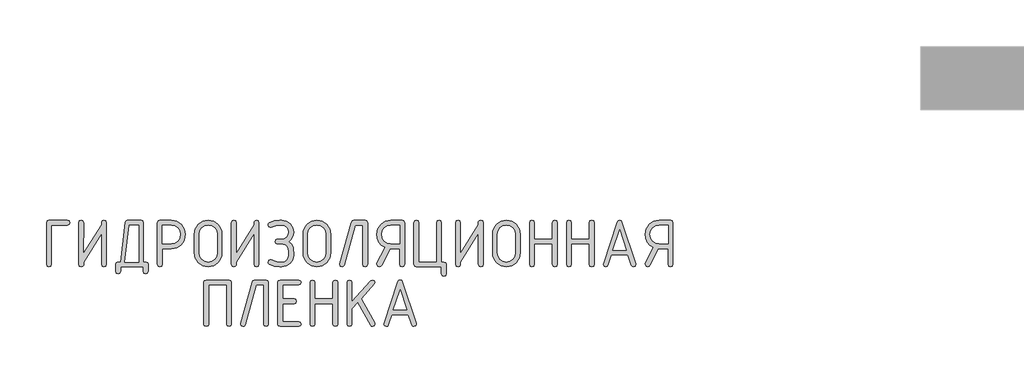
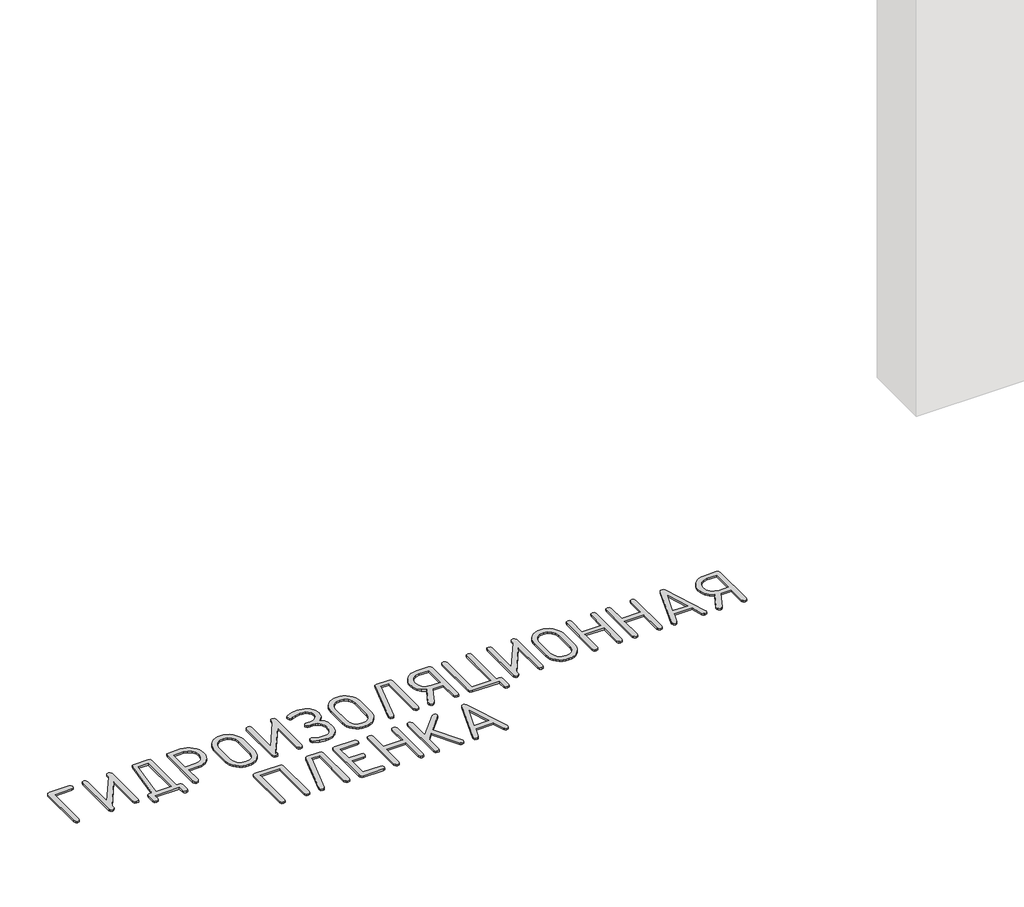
# One storey, part 13 of 42: 1 proxy.
"""IFC4 building model written with IfcOpenShell, lengths in millimetres."""

from ifc_helpers import new_model, si_unit, origin, origin_with_axes, place, context, project, spatial, polyline, outline, extrude, element, save

model = new_model("IFC4")

# Units and contexts
model_context = context("Model", 3, world=origin())
ifc_project = project(units=[si_unit("LENGTHUNIT", "METRE", prefix="MILLI")], contexts=[model_context])

# Site, building, storey
site = spatial("IfcSite", under=ifc_project)
building = spatial("IfcBuilding", under=site)
storey = spatial("IfcBuildingStorey", under=building, Name="Этаж 01", Elevation=0.0)

# Proxy
placement = place(None, origin())
element("IfcBuildingElementProxy", 1, Name="300 мм GOST Common", ObjectType="300 мм GOST Common", at=placement, inside=storey, context=model_context, shape_type="SweptSolid", body=[
    extrude(outline(polyline([(-3643.2745925, -44194.4011118), (-3643.2745925, -44452.9710766), (-3647.1482998, -44464.3500919), (-3658.7694218, -44468.143097), (-3670.3905438, -44464.3299163), (-3674.2642512, -44452.8903743), (-3674.2642512, -44178.6641758), (-3670.3905438, -44167.2246338), (-3658.7694218, -44163.4114531), (-3537.2318541, -44163.4114531), (-3525.8528388, -44167.2851604), (-3522.0598337, -44178.9062825), (-3525.8528388, -44190.5274045), (-3537.2318541, -44194.4011118), (-3643.2745925, -44194.4011118)])), origin_with_axes(), (0.0, 0.0, 1.0), 10.0),
    extrude(outline(polyline([(-3297.7076171, -44163.4114531), (-3285.723335, -44167.2246338), (-3281.7285743, -44178.6641758), (-3281.7285743, -44452.8903743), (-3285.6022817, -44464.3299163), (-3297.2234037, -44468.143097), (-3308.8445257, -44464.3299163), (-3312.718233, -44452.8903743), (-3312.718233, -44249.7628458), (-3431.5119247, -44437.6376517), (-3431.5119247, -44457.4904018), (-3436.7172189, -44465.4799232), (-3446.5225406, -44468.143097), (-3458.5068227, -44464.3299163), (-3462.5015834, -44452.8903743), (-3462.5015834, -44178.6641758), (-3458.6278761, -44167.2246338), (-3447.006754, -44163.4114531), (-3435.385632, -44167.2246338), (-3431.5119247, -44178.6641758), (-3432.3996493, -44381.7917043), (-3312.718233, -44193.9168984), (-3312.718233, -44174.0641483), (-3307.5129388, -44166.0746269), (-3297.7076171, -44163.4114531)])), origin_with_axes(), (0.0, 0.0, 1.0), 10.0),
    extrude(outline(polyline([(-3038.9762478, -44437.1534383), (-3018.8006888, -44438.1218651), (-3010.6901141, -44443.1657549), (-3007.9865891, -44452.6482676), (-3007.9865891, -44499.1327557), (-3011.8602965, -44510.7538777), (-3023.4814185, -44514.627585), (-3035.1025405, -44510.7538777), (-3038.9762478, -44499.1327557), (-3038.9762478, -44468.143097), (-3188.7595982, -44468.143097), (-3188.7595982, -44499.1327557), (-3192.6333056, -44510.7538777), (-3204.2544276, -44514.627585), (-3215.8755496, -44510.7538777), (-3219.7492569, -44499.1327557), (-3219.7492569, -44452.6482676), (-3217.0255564, -44443.1657549), (-3208.854455, -44438.1218651), (-3188.7595982, -44437.1534383), (-3156.8015127, -44177.6957489), (-3152.625172, -44166.9825271), (-3143.6470482, -44163.4114531), (-3053.9061615, -44163.4114531), (-3042.7087263, -44167.2044582), (-3038.9762478, -44178.5834735), (-3038.9762478, -44437.1534383)]), holes=[polyline([(-3069.9659065, -44437.1534383), (-3069.9659065, -44194.4011118), (-3130.5732859, -44194.4011118), (-3160.9173267, -44437.1534383), (-3069.9659065, -44437.1534383)])]), origin_with_axes(), (0.0, 0.0, 1.0), 10.0),
    extrude(outline(polyline([(-2930.9159536, -44163.4114531), (-2855.6207672, -44163.4114531), (-2837.4854616, -44165.1062001), (-2820.767489, -44170.190441), (-2805.4668494, -44178.6641758), (-2791.5835428, -44190.5274045), (-2780.0557327, -44204.8117003), (-2771.8215827, -44220.5486363), (-2766.8810927, -44237.7382126), (-2765.2342627, -44256.3804292), (-2766.7953466, -44276.0717748), (-2771.4785982, -44293.8262668), (-2779.2840176, -44309.6439051), (-2790.2116048, -44323.5246897), (-2803.6359174, -44334.8230028), (-2818.9315131, -44342.8932264), (-2836.0983919, -44347.7353606), (-2855.1365538, -44349.3494053), (-2915.017613, -44349.3494053), (-2915.017613, -44453.2938855), (-2918.8913204, -44464.4307941), (-2930.5124424, -44468.143097), (-2942.1335644, -44464.3299163), (-2946.0072717, -44452.8903743), (-2946.0072717, -44178.6641758), (-2942.2344422, -44167.2246338), (-2930.9159536, -44163.4114531)]), holes=[polyline([(-2915.017613, -44194.4011118), (-2915.017613, -44318.3597466), (-2855.6207672, -44318.3597466), (-2832.6105421, -44313.8706847), (-2813.4538488, -44300.4034991), (-2800.5314032, -44280.4196078), (-2796.2239214, -44256.3804292), (-2800.5314032, -44232.3412506), (-2813.4538488, -44212.3573594), (-2832.6105421, -44198.8901737), (-2855.6207672, -44194.4011118), (-2915.017613, -44194.4011118)])]), origin_with_axes(), (0.0, 0.0, 1.0), 10.0),
    extrude(outline(polyline([(-2522.4819362, -44376.7074634), (-2524.136332, -44394.9411249), (-2529.0995196, -44411.7927606), (-2537.3714988, -44427.2623705), (-2548.9522697, -44441.3499546), (-2562.8734054, -44453.0719544), (-2578.1664792, -44461.4448114), (-2594.8314909, -44466.4685256), (-2612.8684407, -44468.143097), (-2630.9053905, -44466.4685256), (-2647.5704023, -44461.4448114), (-2662.8634761, -44453.0719544), (-2676.7846118, -44441.3499546), (-2688.3653827, -44427.2623705), (-2696.6373619, -44411.7927606), (-2701.6005494, -44394.9411249), (-2703.2549453, -44376.7074634), (-2703.2549453, -44254.8470867), (-2701.6005494, -44236.6134252), (-2696.6373619, -44219.7617895), (-2688.3653827, -44204.2921796), (-2676.7846118, -44190.2045955), (-2662.8634761, -44178.4825957), (-2647.5704023, -44170.1097387), (-2630.9053905, -44165.0860245), (-2612.8684407, -44163.4114531), (-2594.7331351, -44165.0784587), (-2578.0151625, -44170.0794754), (-2562.7145229, -44178.4145032), (-2548.8312163, -44190.0835422), (-2537.3034063, -44204.1332971), (-2529.0692562, -44219.6104728), (-2524.1287662, -44236.5150694), (-2522.4819362, -44254.8470867), (-2522.4819362, -44376.7074634)]), holes=[polyline([(-2553.4715949, -44376.4653567), (-2553.4715949, -44255.0891934), (-2557.7790767, -44231.5644916), (-2570.7015223, -44211.9941993), (-2589.8582156, -44198.7993837), (-2612.8684407, -44194.4011118), (-2635.8786658, -44198.7993837), (-2655.0353591, -44211.9941993), (-2667.9578047, -44231.5644916), (-2672.2652866, -44255.0891934), (-2672.2652866, -44376.4653567), (-2667.9578047, -44399.9900585), (-2655.0353591, -44419.5603508), (-2635.8786658, -44432.7551664), (-2612.8684407, -44437.1534383), (-2589.8582156, -44432.7551664), (-2570.7015223, -44419.5603508), (-2557.7790767, -44399.9900585), (-2553.4715949, -44376.4653567)])]), origin_with_axes(), (0.0, 0.0, 1.0), 10.0),
    extrude(outline(polyline([(-2295.7086525, -44163.4114531), (-2283.7243704, -44167.2246338), (-2279.7296097, -44178.6641758), (-2279.7296097, -44452.8903743), (-2283.6033171, -44464.3299163), (-2295.2244391, -44468.143097), (-2306.8455611, -44464.3299163), (-2310.7192684, -44452.8903743), (-2310.7192684, -44249.7628458), (-2429.5129601, -44437.6376517), (-2429.5129601, -44457.4904018), (-2434.7182543, -44465.4799232), (-2444.523576, -44468.143097), (-2456.5078581, -44464.3299163), (-2460.5026188, -44452.8903743), (-2460.5026188, -44178.6641758), (-2456.6289115, -44167.2246338), (-2445.0077894, -44163.4114531), (-2433.3866674, -44167.2246338), (-2429.5129601, -44178.6641758), (-2430.4006847, -44381.7917043), (-2310.7192684, -44193.9168984), (-2310.7192684, -44174.0641483), (-2305.5139742, -44166.0746269), (-2295.7086525, -44163.4114531)])), origin_with_axes(), (0.0, 0.0, 1.0), 10.0),
    extrude(outline(polyline([(-2144.0691507, -44194.4011118), (-2170.6807131, -44197.7300791), (-2197.7361377, -44207.7169808), (-2204.6765301, -44209.5731322), (-2215.248523, -44204.9731048), (-2219.8485505, -44194.4011118), (-2217.6494145, -44186.5729949), (-2211.0520067, -44180.5203272), (-2179.6184857, -44167.6886716), (-2144.0691507, -44163.4114531), (-2128.8971303, -44163.4114531), (-2099.672833, -44169.0606096), (-2074.9476854, -44186.0080792), (-2058.0910058, -44210.9854213), (-2052.4721126, -44240.7241954), (-2054.3686151, -44259.0284713), (-2060.0581228, -44275.4463325), (-2069.5406355, -44289.9777789), (-2082.8161534, -44302.6228105), (-2065.0414859, -44320.901867), (-2055.2966909, -44342.9739286), (-2052.4721126, -44392.9286129), (-2058.0910058, -44421.8502767), (-2074.9476854, -44446.1517376), (-2099.672833, -44462.6452571), (-2128.8971303, -44468.143097), (-2144.0691507, -44468.143097), (-2179.1746234, -44463.8658785), (-2211.0520067, -44451.0342229), (-2217.6494145, -44445.1026086), (-2219.8485505, -44437.1534383), (-2215.3695764, -44426.460392), (-2204.6765301, -44421.9814179), (-2197.7361377, -44423.8375693), (-2164.2447097, -44435.2972869), (-2128.8971303, -44437.1534383), (-2111.3141306, -44433.9253488), (-2096.6565869, -44424.2410805), (-2086.7604752, -44409.896258), (-2083.4617713, -44392.6865061), (-2083.4617713, -44363.0687855), (-2089.4337368, -44340.7949683), (-2097.2517659, -44330.9795588), (-2107.3899843, -44323.968552), (-2119.848392, -44319.761948), (-2134.626989, -44318.3597466), (-2143.827044, -44318.3597466), (-2152.5428855, -44318.3597466), (-2163.2863707, -44317.2400031), (-2169.8535151, -44313.8807725), (-2174.3324892, -44302.9456195), (-2169.7728129, -44291.9701154), (-2163.3670729, -44288.5200948), (-2153.2692056, -44287.3700879), (-2144.2709063, -44287.3700879), (-2134.2234779, -44287.3700879), (-2112.9483508, -44283.9402429), (-2096.8986936, -44273.6507078), (-2086.8210019, -44258.5795651), (-2083.4617713, -44240.8048976), (-2086.7907385, -44222.9999668), (-2096.7776403, -44207.9994386), (-2111.4654473, -44197.8006935), (-2128.8971303, -44194.4011118), (-2144.0691507, -44194.4011118)])), origin_with_axes(), (0.0, 0.0, 1.0), 10.0),
    extrude(outline(polyline([(-1809.7197861, -44376.7074634), (-1811.374182, -44394.9411249), (-1816.3373695, -44411.7927606), (-1824.6093487, -44427.2623705), (-1836.1901196, -44441.3499546), (-1850.1112553, -44453.0719544), (-1865.4043291, -44461.4448114), (-1882.0693409, -44466.4685256), (-1900.1062907, -44468.143097), (-1918.1432404, -44466.4685256), (-1934.8082522, -44461.4448114), (-1950.101326, -44453.0719544), (-1964.0224617, -44441.3499546), (-1975.6032326, -44427.2623705), (-1983.8752118, -44411.7927606), (-1988.8383994, -44394.9411249), (-1990.4927952, -44376.7074634), (-1990.4927952, -44254.8470867), (-1988.8383994, -44236.6134252), (-1983.8752118, -44219.7617895), (-1975.6032326, -44204.2921796), (-1964.0224617, -44190.2045955), (-1950.101326, -44178.4825957), (-1934.8082522, -44170.1097387), (-1918.1432404, -44165.0860245), (-1900.1062907, -44163.4114531), (-1881.970985, -44165.0784587), (-1865.2530124, -44170.0794754), (-1849.9523728, -44178.4145032), (-1836.0690662, -44190.0835422), (-1824.5412562, -44204.1332971), (-1816.3071061, -44219.6104728), (-1811.3666161, -44236.5150694), (-1809.7197861, -44254.8470867), (-1809.7197861, -44376.7074634)]), holes=[polyline([(-1840.7094448, -44376.4653567), (-1840.7094448, -44255.0891934), (-1845.0169267, -44231.5644916), (-1857.9393722, -44211.9941993), (-1877.0960656, -44198.7993837), (-1900.1062907, -44194.4011118), (-1923.1165158, -44198.7993837), (-1942.2732091, -44211.9941993), (-1955.1956546, -44231.5644916), (-1959.5031365, -44255.0891934), (-1959.5031365, -44376.4653567), (-1955.1956546, -44399.9900585), (-1942.2732091, -44419.5603508), (-1923.1165158, -44432.7551664), (-1900.1062907, -44437.1534383), (-1877.0960656, -44432.7551664), (-1857.9393722, -44419.5603508), (-1845.0169267, -44399.9900585), (-1840.7094448, -44376.4653567)])]), origin_with_axes(), (0.0, 0.0, 1.0), 10.0),
    extrude(outline(polyline([(-1659.0487111, -44163.4114531), (-1582.462289, -44163.4114531), (-1570.841167, -44167.2246338), (-1566.9674596, -44178.6641758), (-1566.9674596, -44452.8903743), (-1570.841167, -44464.3299163), (-1582.462289, -44468.143097), (-1594.083411, -44464.3500919), (-1597.9571183, -44452.9710766), (-1597.9571183, -44194.4011118), (-1647.1047802, -44194.4011118), (-1719.8981972, -44457.571104), (-1725.0026137, -44465.5000987), (-1734.3438975, -44468.143097), (-1745.7229128, -44464.3299163), (-1749.5159179, -44452.8903743), (-1748.3053844, -44447.4026223), (-1674.2207315, -44178.6641758), (-1668.3294683, -44167.2246338), (-1659.0487111, -44163.4114531)])), origin_with_axes(), (0.0, 0.0, 1.0), 10.0),
    extrude(outline(polyline([(-1452.2088798, -44339.8265414), (-1475.4309482, -44326.1878635), (-1492.8021046, -44306.0930067), (-1501.9416328, -44282.0639159), (-1504.9881422, -44254.8470867), (-1503.3337464, -44236.6134252), (-1498.3705589, -44219.7617895), (-1490.0985797, -44204.2921796), (-1478.5178088, -44190.2045955), (-1464.596673, -44178.4825957), (-1449.3035993, -44170.1097387), (-1432.6385875, -44165.0860245), (-1414.6016377, -44163.4114531), (-1339.3064513, -44163.4114531), (-1327.9879627, -44167.2246338), (-1324.2151332, -44178.6641758), (-1324.2151332, -44452.8903743), (-1328.0888405, -44464.3299163), (-1339.7099625, -44468.143097), (-1351.3310845, -44464.4307941), (-1355.2047919, -44453.2938855), (-1355.2047919, -44349.3494053), (-1419.5244741, -44349.3494053), (-1473.9984835, -44459.8307667), (-1480.0309757, -44466.0650144), (-1488.7669928, -44468.143097), (-1500.0653058, -44463.5430695), (-1504.9881422, -44452.8903743), (-1504.9881422, -44445.949982), (-1452.2088798, -44339.8265414)]), holes=[polyline([(-1355.2047919, -44194.4011118), (-1414.6016377, -44194.4011118), (-1437.6118628, -44198.8901737), (-1456.7685561, -44212.3573594), (-1469.6910017, -44232.3412506), (-1473.9984835, -44256.3804292), (-1469.6910017, -44280.4196078), (-1456.7685561, -44300.4034991), (-1437.6118628, -44313.8706847), (-1414.6016377, -44318.3597466), (-1355.2047919, -44318.3597466), (-1355.2047919, -44194.4011118)])]), origin_with_axes(), (0.0, 0.0, 1.0), 10.0),
    extrude(outline(polyline([(-1081.4628067, -44468.143097), (-1247.1444976, -44468.143097), (-1258.4629862, -44464.3299163), (-1262.2358158, -44452.8903743), (-1262.2358158, -44178.6641758), (-1258.3621084, -44167.2246338), (-1246.7409864, -44163.4114531), (-1235.1198644, -44167.2044582), (-1231.2461571, -44178.5834735), (-1231.2461571, -44437.1534383), (-1112.4524654, -44437.1534383), (-1112.4524654, -44178.5834735), (-1108.5787581, -44167.2044582), (-1096.957636, -44163.4114531), (-1085.336514, -44167.2044582), (-1081.4628067, -44178.5834735), (-1081.4628067, -44437.1534383), (-1065.9679773, -44437.1534383), (-1054.3468553, -44441.0271456), (-1050.473148, -44452.6482676), (-1050.473148, -44514.627585), (-1054.3468553, -44526.248707), (-1065.9679773, -44530.1224144), (-1077.5890994, -44526.248707), (-1081.4628067, -44514.627585), (-1081.4628067, -44468.143097)])), origin_with_axes(), (0.0, 0.0, 1.0), 10.0),
    extrude(outline(polyline([(-823.6998643, -44163.4114531), (-811.7155822, -44167.2246338), (-807.7208215, -44178.6641758), (-807.7208215, -44452.8903743), (-811.5945289, -44464.3299163), (-823.2156509, -44468.143097), (-834.8367729, -44464.3299163), (-838.7104802, -44452.8903743), (-838.7104802, -44249.7628458), (-957.5041719, -44437.6376517), (-957.5041719, -44457.4904018), (-962.7094661, -44465.4799232), (-972.5147878, -44468.143097), (-984.4990699, -44464.3299163), (-988.4938306, -44452.8903743), (-988.4938306, -44178.6641758), (-984.6201233, -44167.2246338), (-972.9990012, -44163.4114531), (-961.3778792, -44167.2246338), (-957.5041719, -44178.6641758), (-958.3918965, -44381.7917043), (-838.7104802, -44193.9168984), (-838.7104802, -44174.0641483), (-833.505186, -44166.0746269), (-823.6998643, -44163.4114531)])), origin_with_axes(), (0.0, 0.0, 1.0), 10.0),
    extrude(outline(polyline([(-564.968495, -44376.7074634), (-566.6228909, -44394.9411249), (-571.5860784, -44411.7927606), (-579.8580576, -44427.2623705), (-591.4388285, -44441.3499546), (-605.3599643, -44453.0719544), (-620.653038, -44461.4448114), (-637.3180498, -44466.4685256), (-655.3549996, -44468.143097), (-673.3919494, -44466.4685256), (-690.0569611, -44461.4448114), (-705.3500349, -44453.0719544), (-719.2711706, -44441.3499546), (-730.8519415, -44427.2623705), (-739.1239207, -44411.7927606), (-744.0871083, -44394.9411249), (-745.7415041, -44376.7074634), (-745.7415041, -44254.8470867), (-744.0871083, -44236.6134252), (-739.1239207, -44219.7617895), (-730.8519415, -44204.2921796), (-719.2711706, -44190.2045955), (-705.3500349, -44178.4825957), (-690.0569611, -44170.1097387), (-673.3919494, -44165.0860245), (-655.3549996, -44163.4114531), (-637.2196939, -44165.0784587), (-620.5017213, -44170.0794754), (-605.2010817, -44178.4145032), (-591.3177752, -44190.0835422), (-579.7899651, -44204.1332971), (-571.5558151, -44219.6104728), (-566.615325, -44236.5150694), (-564.968495, -44254.8470867), (-564.968495, -44376.7074634)]), holes=[polyline([(-595.9581537, -44376.4653567), (-595.9581537, -44255.0891934), (-600.2656356, -44231.5644916), (-613.1880812, -44211.9941993), (-632.3447745, -44198.7993837), (-655.3549996, -44194.4011118), (-678.3652247, -44198.7993837), (-697.521918, -44211.9941993), (-710.4443636, -44231.5644916), (-714.7518454, -44255.0891934), (-714.7518454, -44376.4653567), (-710.4443636, -44399.9900585), (-697.521918, -44419.5603508), (-678.3652247, -44432.7551664), (-655.3549996, -44437.1534383), (-632.3447745, -44432.7551664), (-613.1880812, -44419.5603508), (-600.2656356, -44399.9900585), (-595.9581537, -44376.4653567)])]), origin_with_axes(), (0.0, 0.0, 1.0), 10.0),
    extrude(outline(polyline([(-502.9891776, -44452.8903743), (-502.9891776, -44178.6641758), (-499.1154703, -44167.2246338), (-487.4943483, -44163.4114531), (-475.8732263, -44167.2851604), (-471.9995189, -44178.9062825), (-471.9995189, -44287.3700879), (-353.2058273, -44287.3700879), (-353.2058273, -44178.9062825), (-349.3321199, -44167.2851604), (-337.7109979, -44163.4114531), (-326.0898759, -44167.2246338), (-322.2161686, -44178.6641758), (-322.2161686, -44452.8903743), (-326.0898759, -44464.3299163), (-337.7109979, -44468.143097), (-349.3321199, -44464.390443), (-353.2058273, -44453.1324811), (-353.2058273, -44318.3597466), (-471.9995189, -44318.3597466), (-471.9995189, -44453.1324811), (-475.8732263, -44464.390443), (-487.4943483, -44468.143097), (-499.1154703, -44464.3299163), (-502.9891776, -44452.8903743)])), origin_with_axes(), (0.0, 0.0, 1.0), 10.0),
    extrude(outline(polyline([(-260.2368512, -44452.8903743), (-260.2368512, -44178.6641758), (-256.3631438, -44167.2246338), (-244.7420218, -44163.4114531), (-233.1208998, -44167.2851604), (-229.2471925, -44178.9062825), (-229.2471925, -44287.3700879), (-110.4535008, -44287.3700879), (-110.4535008, -44178.9062825), (-106.5797935, -44167.2851604), (-94.9586714, -44163.4114531), (-83.3375494, -44167.2246338), (-79.4638421, -44178.6641758), (-79.4638421, -44452.8903743), (-83.3375494, -44464.3299163), (-94.9586714, -44468.143097), (-106.5797935, -44464.390443), (-110.4535008, -44453.1324811), (-110.4535008, -44318.3597466), (-229.2471925, -44318.3597466), (-229.2471925, -44453.1324811), (-233.1208998, -44464.390443), (-244.7420218, -44468.143097), (-256.3631438, -44464.3299163), (-260.2368512, -44452.8903743)])), origin_with_axes(), (0.0, 0.0, 1.0), 10.0),
    extrude(outline(polyline([(193.9553341, -44452.8903743), (190.162329, -44464.3299163), (178.7833137, -44468.143097), (169.6437855, -44465.5000987), (164.3376135, -44457.571104), (142.5480097, -44390.6689502), (33.2771819, -44390.6689502), (11.4068759, -44457.571104), (6.1007038, -44465.5000987), (-3.0388244, -44468.143097), (-14.4178397, -44464.3299163), (-18.2108448, -44452.8903743), (-17.4845247, -44448.0482402), (72.7405754, -44175.678193), (78.5914875, -44166.4781381), (87.9125958, -44163.4114531), (97.1126507, -44166.3570847), (102.7618072, -44175.1939796), (193.229014, -44448.0482402), (193.9553341, -44452.8903743)]), holes=[polyline([(87.9125958, -44226.0363884), (43.3649614, -44359.6792915), (132.3795279, -44359.6792915), (87.9125958, -44226.0363884)])]), origin_with_axes(), (0.0, 0.0, 1.0), 10.0),
    extrude(outline(polyline([(309.036723, -44339.8265414), (285.8146545, -44326.1878635), (268.4434981, -44306.0930067), (259.3039699, -44282.0639159), (256.2574605, -44254.8470867), (257.9118563, -44236.6134252), (262.8750439, -44219.7617895), (271.1470231, -44204.2921796), (282.727794, -44190.2045955), (296.6489297, -44178.4825957), (311.9420035, -44170.1097387), (328.6070152, -44165.0860245), (346.643965, -44163.4114531), (421.9391514, -44163.4114531), (433.25764, -44167.2246338), (437.0304696, -44178.6641758), (437.0304696, -44452.8903743), (433.1567622, -44464.3299163), (421.5356402, -44468.143097), (409.9145182, -44464.4307941), (406.0408109, -44453.2938855), (406.0408109, -44349.3494053), (341.7211286, -44349.3494053), (287.2471192, -44459.8307667), (281.214627, -44466.0650144), (272.47861, -44468.143097), (261.1802969, -44463.5430695), (256.2574605, -44452.8903743), (256.2574605, -44445.949982), (309.036723, -44339.8265414)]), holes=[polyline([(406.0408109, -44194.4011118), (346.643965, -44194.4011118), (323.6337399, -44198.8901737), (304.4770466, -44212.3573594), (291.554601, -44232.3412506), (287.2471192, -44256.3804292), (291.554601, -44280.4196078), (304.4770466, -44300.4034991), (323.6337399, -44313.8706847), (346.643965, -44318.3597466), (406.0408109, -44318.3597466), (406.0408109, -44194.4011118)])]), origin_with_axes(), (0.0, 0.0, 1.0), 10.0),
    extrude(outline(polyline([(-2626.1843097, -44555.4599443), (-2475.593937, -44555.4599443), (-2464.2754483, -44559.273125), (-2460.5026188, -44570.7126669), (-2460.5026188, -44844.9388655), (-2464.3763261, -44856.3784075), (-2475.9974481, -44860.1915882), (-2487.6185702, -44856.3985831), (-2491.4922775, -44845.0195678), (-2491.4922775, -44586.449603), (-2610.2859692, -44586.449603), (-2610.2859692, -44845.0195678), (-2614.1596765, -44856.3985831), (-2625.7807985, -44860.1915882), (-2637.4019205, -44856.3784075), (-2641.2756279, -44844.9388655), (-2641.2756279, -44570.7126669), (-2637.5027983, -44559.273125), (-2626.1843097, -44555.4599443)])), origin_with_axes(), (0.0, 0.0, 1.0), 10.0),
    extrude(outline(polyline([(-2309.8315438, -44555.4599443), (-2233.2451217, -44555.4599443), (-2221.6239997, -44559.273125), (-2217.7502923, -44570.7126669), (-2217.7502923, -44844.9388655), (-2221.6239997, -44856.3784075), (-2233.2451217, -44860.1915882), (-2244.8662437, -44856.3985831), (-2248.739951, -44845.0195678), (-2248.739951, -44586.449603), (-2297.8876129, -44586.449603), (-2370.6810299, -44849.6195952), (-2375.7854463, -44857.5485899), (-2385.1267302, -44860.1915882), (-2396.5057455, -44856.3784075), (-2400.2987506, -44844.9388655), (-2399.0882171, -44839.4511135), (-2325.0035642, -44570.7126669), (-2319.112301, -44559.273125), (-2309.8315438, -44555.4599443)])), origin_with_axes(), (0.0, 0.0, 1.0), 10.0),
    extrude(outline(polyline([(-2155.7709749, -44844.9388655), (-2155.7709749, -44570.7126669), (-2151.8972676, -44559.273125), (-2140.2761456, -44555.4599443), (-2018.7385779, -44555.4599443), (-2007.3595626, -44559.3336516), (-2003.5665575, -44570.9547736), (-2007.3595626, -44582.5758957), (-2018.7385779, -44586.449603), (-2124.7813162, -44586.449603), (-2124.7813162, -44679.4185791), (-2049.0019164, -44679.4185791), (-2037.6834278, -44683.2922864), (-2033.9105983, -44694.9134084), (-2037.6834278, -44706.5345305), (-2049.0019164, -44710.4082378), (-2124.7813162, -44710.4082378), (-2124.7813162, -44829.2019295), (-2018.7385779, -44829.2019295), (-2007.3595626, -44833.0756368), (-2003.5665575, -44844.6967588), (-2007.3595626, -44856.3178808), (-2018.7385779, -44860.1915882), (-2140.2761456, -44860.1915882), (-2151.8972676, -44856.3784075), (-2155.7709749, -44844.9388655)])), origin_with_axes(), (0.0, 0.0, 1.0), 10.0),
    extrude(outline(polyline([(-1944.0083071, -44844.9388655), (-1944.0083071, -44570.7126669), (-1940.1345998, -44559.273125), (-1928.5134778, -44555.4599443), (-1916.8923558, -44559.3336516), (-1913.0186484, -44570.9547736), (-1913.0186484, -44679.4185791), (-1794.2249568, -44679.4185791), (-1794.2249568, -44570.9547736), (-1790.3512494, -44559.3336516), (-1778.7301274, -44555.4599443), (-1767.1090054, -44559.273125), (-1763.2352981, -44570.7126669), (-1763.2352981, -44844.9388655), (-1767.1090054, -44856.3784075), (-1778.7301274, -44860.1915882), (-1790.3512494, -44856.4389342), (-1794.2249568, -44845.1809722), (-1794.2249568, -44710.4082378), (-1913.0186484, -44710.4082378), (-1913.0186484, -44845.1809722), (-1916.8923558, -44856.4389342), (-1928.5134778, -44860.1915882), (-1940.1345998, -44856.3784075), (-1944.0083071, -44844.9388655)])), origin_with_axes(), (0.0, 0.0, 1.0), 10.0),
    extrude(outline(polyline([(-1631.0450352, -44700.8853739), (-1670.266322, -44744.303177), (-1670.266322, -44844.9388655), (-1674.1400293, -44856.3784075), (-1685.7611513, -44860.1915882), (-1697.3822733, -44856.3784075), (-1701.2559807, -44844.9388655), (-1701.2559807, -44570.7126669), (-1697.3822733, -44559.273125), (-1685.7611513, -44555.4599443), (-1674.1400293, -44559.273125), (-1670.266322, -44570.7126669), (-1670.266322, -44698.7871158), (-1545.4199626, -44560.5441852), (-1533.8795428, -44555.4599443), (-1522.5610542, -44559.273125), (-1518.7882246, -44570.7126669), (-1522.9040387, -44581.1232554), (-1609.4168359, -44676.9168098), (-1520.8057805, -44837.3528553), (-1518.7882246, -44844.9388655), (-1523.4689543, -44855.4705074), (-1533.8795428, -44860.1915882), (-1541.8690642, -44858.1740323), (-1547.4375185, -44852.1213645), (-1631.0450352, -44700.8853739)])), origin_with_axes(), (0.0, 0.0, 1.0), 10.0),
    extrude(outline(polyline([(-1247.0637954, -44844.9388655), (-1250.8568005, -44856.3784075), (-1262.2358158, -44860.1915882), (-1271.375344, -44857.5485899), (-1276.681516, -44849.6195952), (-1298.4711198, -44782.7174414), (-1407.7419476, -44782.7174414), (-1429.6122536, -44849.6195952), (-1434.9184257, -44857.5485899), (-1444.0579539, -44860.1915882), (-1455.4369692, -44856.3784075), (-1459.2299743, -44844.9388655), (-1458.5036542, -44840.0967314), (-1368.2785541, -44567.7266842), (-1362.427642, -44558.5266293), (-1353.1065337, -44555.4599443), (-1343.9064788, -44558.4055759), (-1338.2573223, -44567.2424708), (-1247.7901155, -44840.0967314), (-1247.0637954, -44844.9388655)]), holes=[polyline([(-1353.1065337, -44618.0848796), (-1397.6541681, -44751.7277827), (-1308.6396016, -44751.7277827), (-1353.1065337, -44618.0848796)])]), origin_with_axes(), (0.0, 0.0, 1.0), 10.0),
])

save(model, "model.ifc")
